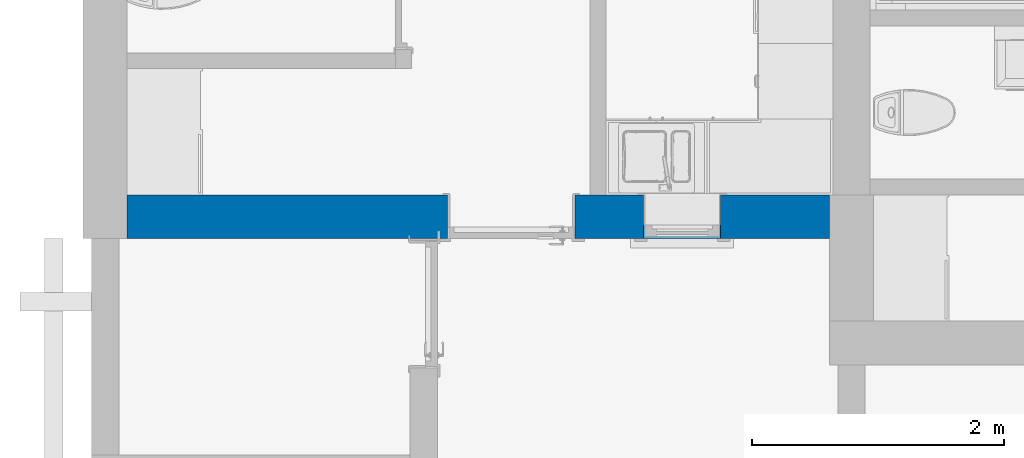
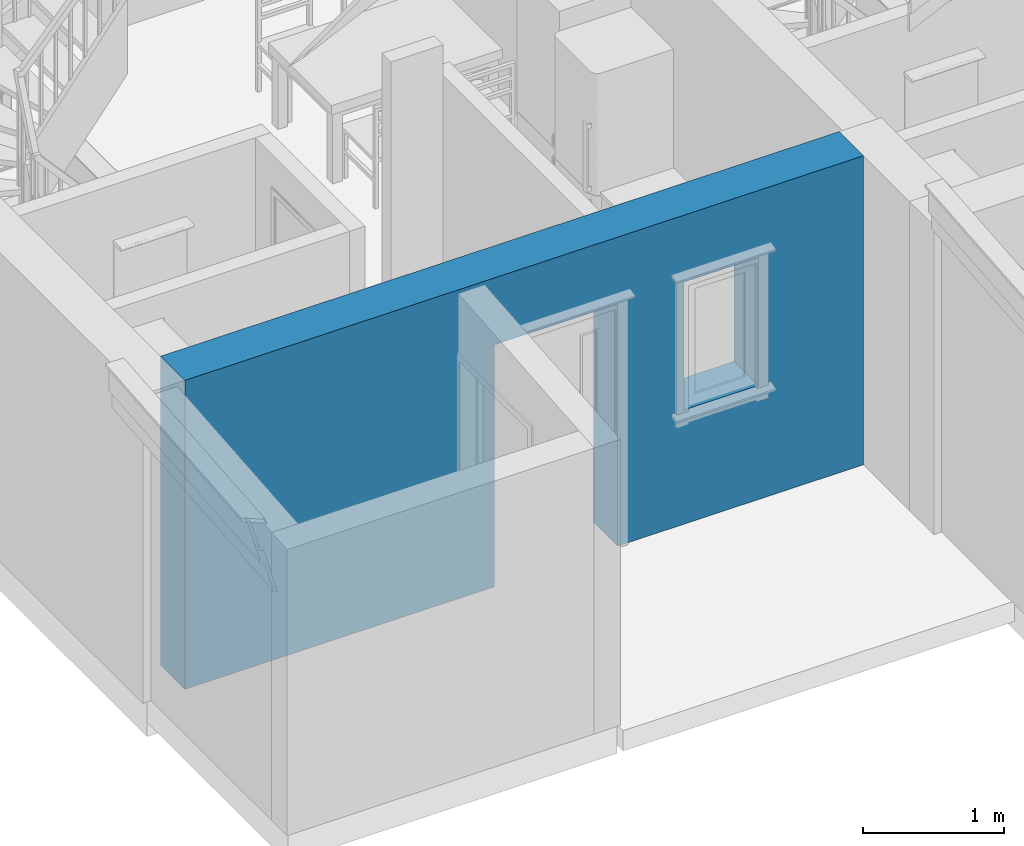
# One storey, part 4 of 65: 1 wall, 2 openings.
"""IFC2X3 building model written with IfcOpenShell, lengths in millimetres."""

import ifcopenshell
import ifcopenshell.guid

model = None  # the IFC model being written
_history = None  # IfcOwnerHistory: only IFC2X3 demands one
_inside = {}  # id of a spatial element -> (the spatial element, [elements in it])
_under = {}  # id of a project, library or spatial element -> (it, [spatial elements below it])
_declared = {}  # id of a project -> (the project, [libraries it declares])
_typed = {}  # id of a type object -> (the type object, [elements of that type])
_made_of = {}  # id of a material, layer set ... -> (it, [elements and type objects made of it])


def new_model(schema):
    """Start an empty IFC model of exactly this schema.

    Asked for "IFC4X3", IfcOpenShell would pick the latest addendum, in which some entities
    have other attributes; the version numbers below select the first issue.
    IFC2X3 requires an IfcOwnerHistory on every rooted entity: one is made here for all.
    """
    global model, _history
    if schema == "IFC4X3":
        model = ifcopenshell.file(schema_version=(4, 3, 0, 0))
    else:
        model = ifcopenshell.file(schema=schema)
    _inside.clear()
    _under.clear()
    _declared.clear()
    _typed.clear()
    _made_of.clear()
    _history = None
    if model.schema == "IFC2X3":
        org = make("IfcOrganization", Name="unknown")
        user = make(
            "IfcPersonAndOrganization",
            ThePerson=make("IfcPerson", FamilyName="unknown"),
            TheOrganization=org,
        )
        app = make(
            "IfcApplication",
            ApplicationDeveloper=org,
            Version="unknown",
            ApplicationFullName="unknown",
            ApplicationIdentifier="unknown",
        )
        _history = make(
            "IfcOwnerHistory",
            OwningUser=user,
            OwningApplication=app,
            ChangeAction="ADDED",
            CreationDate=0,
        )
    return model


def make(cls, **values):
    """One entity of the class cls with the attributes given. An attribute that is None is left unset."""
    return model.create_entity(
        cls, **{name: value for name, value in values.items() if value is not None}
    )


def entity(cls, *values):
    """Any entity or typed value of the class cls, its attributes in the order of the schema. None: left unset."""
    e = model.create_entity(cls)
    for i, value in enumerate(values):
        if value is not None:
            e[i] = value
    return e


def rooted(cls, **values):
    """An entity with a GlobalId (a new one), such as an element, a storey or a relation."""
    return make(cls, GlobalId=ifcopenshell.guid.new(), OwnerHistory=_history, **values)


def si_unit(unit_type, name, prefix=None):
    """IfcSIUnit, for example si_unit("LENGTHUNIT", "METRE", prefix="MILLI")."""
    return make("IfcSIUnit", UnitType=unit_type, Prefix=prefix, Name=name)


def converted_unit(unit_type, name, factor, base, dimensions=None, offset=None):
    """IfcConversionBasedUnit, such as the inch: factor (a typed value) times the base unit."""
    return make(
        "IfcConversionBasedUnit"
        if offset is None
        else "IfcConversionBasedUnitWithOffset",
        ConversionOffset=offset,
        Dimensions=None
        if dimensions is None
        else entity("IfcDimensionalExponents", *dimensions),
        UnitType=unit_type,
        Name=name,
        ConversionFactor=make(
            "IfcMeasureWithUnit", ValueComponent=factor, UnitComponent=base
        ),
    )


def assignment(units):
    """IfcUnitAssignment: the units of a project."""
    return None if units is None else make("IfcUnitAssignment", Units=units)


def point(xyz):
    """IfcCartesianPoint."""
    return None if xyz is None else make("IfcCartesianPoint", Coordinates=xyz)


def direction(xyz):
    """IfcDirection."""
    return None if xyz is None else make("IfcDirection", DirectionRatios=xyz)


def frame(location, z_axis=None, x_axis=None):
    """IfcAxis2Placement3D, a coordinate frame: its origin and axes. An axis left out is left unset."""
    return make(
        "IfcAxis2Placement3D",
        Location=point(location),
        Axis=direction(z_axis),
        RefDirection=direction(x_axis),
    )


def frame_2d(location, x_axis=None):
    """IfcAxis2Placement2D, a coordinate frame in the plane: its origin and x axis."""
    return make(
        "IfcAxis2Placement2D", Location=point(location), RefDirection=direction(x_axis)
    )


def origin():
    """The frame at (0, 0, 0) with its axes left unset."""
    return frame((0.0, 0.0, 0.0))


def place(relative_to, where):
    """IfcLocalPlacement: puts the frame where relative to a parent placement (None: the world)."""
    return make(
        "IfcLocalPlacement", PlacementRelTo=relative_to, RelativePlacement=where
    )


def context(
    kind, dimensions, precision=None, world=None, true_north=None, identifier=None
):
    """IfcGeometricRepresentationContext, for example the 3D "Model" context."""
    return make(
        "IfcGeometricRepresentationContext",
        ContextIdentifier=identifier,
        ContextType=kind,
        CoordinateSpaceDimension=dimensions,
        Precision=precision,
        WorldCoordinateSystem=world,
        TrueNorth=true_north,
    )


def subcontext(parent, identifier, kind, view, scale=None):
    """IfcGeometricRepresentationSubContext, for example "Body" below "Model"."""
    return make(
        "IfcGeometricRepresentationSubContext",
        ContextIdentifier=identifier,
        ContextType=kind,
        ParentContext=parent,
        TargetScale=scale,
        TargetView=view,
    )


def project(units=None, contexts=None):
    """IfcProject with its units and contexts."""
    return rooted(
        "IfcProject",
        Name="project",
        RepresentationContexts=contexts,
        UnitsInContext=assignment(units),
    )


def spatial(cls, under=None, at=None, **own):
    """A site, building, storey or space (cls), placed at a placement, below another one or the project."""
    s = rooted(cls, ObjectPlacement=at, **own)
    if under is not None:
        _under.setdefault(under.id(), (under, []))[1].append(s)
    return s


def profile(cls, at=None, kind="AREA", **sizes):
    """A parametric profile (cls). Its sizes go by their IFC names, for example OverallWidth=200.0."""
    return make(cls, ProfileType=kind, Position=at, **sizes)


def rectangle(**sizes):
    """IfcRectangleProfileDef."""
    return profile("IfcRectangleProfileDef", **sizes)


def extrude(swept, where, along, depth):
    """IfcExtrudedAreaSolid: the profile swept, set in the frame where, extruded along a direction by depth."""
    return make(
        "IfcExtrudedAreaSolid",
        SweptArea=swept,
        Position=where,
        ExtrudedDirection=direction(along),
        Depth=depth,
    )


def shape(context_of_items, identifier, shape_type, items):
    """IfcShapeRepresentation: the items that make up one representation, for example the "Body"."""
    return make(
        "IfcShapeRepresentation",
        ContextOfItems=context_of_items,
        RepresentationIdentifier=identifier,
        RepresentationType=shape_type,
        Items=items,
    )


def material(Name=None, Category=None):
    """IfcMaterial."""
    return make("IfcMaterial", Name=Name, Category=Category)


def layer(
    of_material, thickness, ventilated=None, Name=None, Category=None, Priority=None
):
    """IfcMaterialLayer: one layer of a wall or slab, of a material (None: an air gap)."""
    return make(
        "IfcMaterialLayer",
        Material=of_material,
        LayerThickness=thickness,
        IsVentilated=ventilated,
        Name=Name,
        Category=Category,
        Priority=Priority,
    )


def layer_set(layers, Name=None):
    """IfcMaterialLayerSet."""
    return make("IfcMaterialLayerSet", MaterialLayers=layers, LayerSetName=Name)


def layer_usage(for_layer_set, set_direction, sense, offset, extent=None):
    """IfcMaterialLayerSetUsage: how a layer set lies in its element."""
    return make(
        "IfcMaterialLayerSetUsage",
        ForLayerSet=for_layer_set,
        LayerSetDirection=set_direction,
        DirectionSense=sense,
        OffsetFromReferenceLine=offset,
        ReferenceExtent=extent,
    )


def made_of(thing, what):
    """Note that an element or type object is made of a material, layer set ...; save() writes the relation."""
    if what is not None:
        _made_of.setdefault(what.id(), (what, []))[1].append(thing)
    return thing


def type_object(cls, material=None, **own):
    """A type object (cls), such as IfcWallType, which elements share."""
    return made_of(rooted(cls, **own), material)


def element(
    cls,
    number,
    at=None,
    inside=None,
    cuts=None,
    type_object=None,
    material=None,
    context=None,
    identifier="Body",
    shape_type=None,
    held_by="IfcProductDefinitionShape",
    body=None,
    shapes=None,
    **own,
):
    """One element of the class cls, such as IfcWall. Its Tag is "e" and its number.

    at: its placement. inside: the storey or other place that contains it. cuts: it is an
    opening in that element (IfcRelVoidsElement). A single representation is given by context,
    identifier, shape_type and body (its items); several are given by shapes. held_by: the class
    of the entity that holds the representations. save() writes the other relations.
    """
    e = rooted(cls, Tag="e%d" % number, ObjectPlacement=at, **own)
    if body is not None:
        shapes = [shape(context, identifier, shape_type, body)]
    if shapes is not None:
        e.Representation = make(held_by, Representations=shapes)
    if inside is not None:
        _inside.setdefault(inside.id(), (inside, []))[1].append(e)
    if cuts is not None:
        rooted(
            "IfcRelVoidsElement", RelatingBuildingElement=cuts, RelatedOpeningElement=e
        )
    if type_object is not None:
        _typed.setdefault(type_object.id(), (type_object, []))[1].append(e)
    return made_of(e, material)


def aggregate(whole, parts):
    """IfcRelAggregates: a whole, such as a stair, and the parts it consists of."""
    return rooted("IfcRelAggregates", RelatingObject=whole, RelatedObjects=parts)


def save(model, path):
    """Write the relations noted so far, then the file.

    IfcRelAggregates (storeys below a building ...), IfcRelContainedInSpatialStructure (elements
    in a storey), IfcRelDefinesByType, IfcRelAssociatesMaterial and IfcRelDeclares: one each for
    every whole, place, type object, material and project.
    """
    for whole, parts in _under.values():
        aggregate(whole, parts)
    for where, things in _inside.values():
        rooted(
            "IfcRelContainedInSpatialStructure",
            RelatedElements=things,
            RelatingStructure=where,
        )
    for kind, things in _typed.values():
        rooted("IfcRelDefinesByType", RelatedObjects=things, RelatingType=kind)
    for what, things in _made_of.values():
        rooted("IfcRelAssociatesMaterial", RelatedObjects=things, RelatingMaterial=what)
    for by, libraries in _declared.values():
        rooted("IfcRelDeclares", RelatingContext=by, RelatedDefinitions=libraries)
    model.write(path)


model = new_model("IFC2X3")

# Units and contexts
model_context = context("Model", 3, precision=0.01, world=origin(), true_north=direction((0.0, 1.0)))
body_context = subcontext(model_context, "Body", "Model", "MODEL_VIEW")
ifc_project = project(units=[si_unit("LENGTHUNIT", "METRE", prefix="MILLI"), si_unit("AREAUNIT", "SQUARE_METRE"), si_unit("VOLUMEUNIT", "CUBIC_METRE"), converted_unit("PLANEANGLEUNIT", "DEGREE", entity("IfcPlaneAngleMeasure", 0.017453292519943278), si_unit("PLANEANGLEUNIT", "RADIAN"), dimensions=[0, 0, 0, 0, 0, 0, 0])], contexts=[model_context])

# Site, building, storey
site_placement = place(None, origin())
site = spatial("IfcSite", under=ifc_project, at=site_placement, Name="Default", CompositionType="ELEMENT")
building_placement = place(site_placement, origin())
building = spatial("IfcBuilding", under=site, at=building_placement, CompositionType="ELEMENT")
storey_placement = place(building_placement, origin())
storey = spatial("IfcBuildingStorey", under=building, at=storey_placement, Name="Et. 1", CompositionType="ELEMENT", Elevation=0.0)

# Wall, openings
ifc_material_1 = material(Name="Vegg - Stående Kledning_smal - HVIT")
ifc_layer_1 = layer(ifc_material_1, 19.0)
ifc_material_2 = material(Name="Vegg - Utlekting")
ifc_layer_2 = layer(ifc_material_2, 36.0)
ifc_layer_3 = layer(ifc_material_2, 23.0)
ifc_material_3 = material(Name="Vegg - Gips - GU")
ifc_layer_4 = layer(ifc_material_3, 9.0)
ifc_material_4 = material(Name="Vegg - Stender - Isolert")
ifc_layer_5 = layer(ifc_material_4, 198.0)
ifc_material_5 = material(Name="Vegg - Påforing - Isolert")
ifc_layer_6 = layer(ifc_material_5, 48.0)
ifc_material_6 = material(Name="Vegg - Gips - Hvit")
ifc_layer_7 = layer(ifc_material_6, 13.000000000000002)
ifc_layer_set = layer_set([ifc_layer_1, ifc_layer_2, ifc_layer_3, ifc_layer_4, ifc_layer_5, ifc_layer_6, ifc_layer_7], Name="Basic Wall:23-Kv(sm)TIG-19_36_23_9_198_48_13")
ifc_layer_usage = layer_usage(ifc_layer_set, "AXIS2", "NEGATIVE", 173.0)
wall_type = type_object("IfcWallType", Name="Basic Wall:23-Kv(sm)TIG-19_36_23_9_198_48_13", PredefinedType="STANDARD", material=ifc_layer_set)
wall_placement = place(storey_placement, frame((16005.0095867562, 11581.180957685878, 0.0), z_axis=(0.0, 0.0, 1.0), x_axis=(-1.0, 0.0, 0.0)))
wall = element("IfcWallStandardCase", 1, at=wall_placement, inside=storey, type_object=wall_type, material=ifc_layer_usage, Name="Basic Wall:23-Kv(sm)TIG-19_36_23_9_198_48_13", context=body_context, shape_type="SweptSolid", body=[
    extrude(rectangle(XDim=5568.0, YDim=345.99999999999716, at=frame_2d((2784.000000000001, 8.526512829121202e-13), x_axis=(1.0, 0.0))), origin(), (0.0, 0.0, 1.0), 2681.0),
])
opening_1_placement = place(wall_placement, frame((2017.0, -173.0, 0.0)))
element("IfcOpeningElement", 2, at=opening_1_placement, cuts=wall, Name="YD 1 Glassfelt omramming:10x21M:1", ObjectType="Opening", context=body_context, shape_type="SweptSolid", body=[
    extrude(rectangle(XDim=1010.0000000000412, YDim=2100.000000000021, at=frame_2d((1050.0000000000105, 505.0000000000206), x_axis=(0.0, 1.0))), frame((0.0, 0.0, 0.0), z_axis=(0.0, 1.0, 0.0), x_axis=(0.0, 0.0, 1.0)), (0.0, 0.0, 1.0), 346.0),
])
opening_2_placement = place(wall_placement, frame((863.0, -173.0, 990.0)))
element("IfcOpeningElement", 3, at=opening_2_placement, cuts=wall, Name="Hel Rute Åpningsvindu m omramming:6x11M:1", ObjectType="Opening", context=body_context, shape_type="SweptSolid", body=[
    extrude(rectangle(XDim=609.9999999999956, YDim=1109.9999999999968, at=frame_2d((554.9999999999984, 304.9999999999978), x_axis=(0.0, -1.0))), frame((0.0, 0.0, 0.0), z_axis=(0.0, 1.0, 0.0), x_axis=(0.0, 0.0, 1.0)), (0.0, 0.0, 1.0), 346.0),
])

save(model, "model.ifc")
